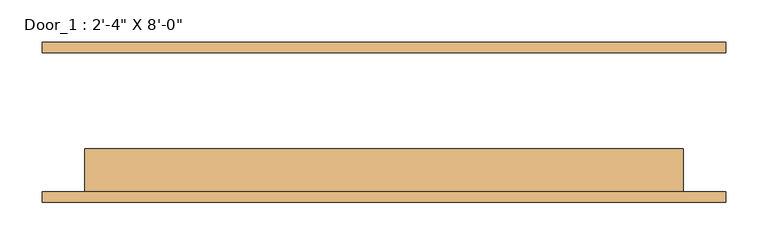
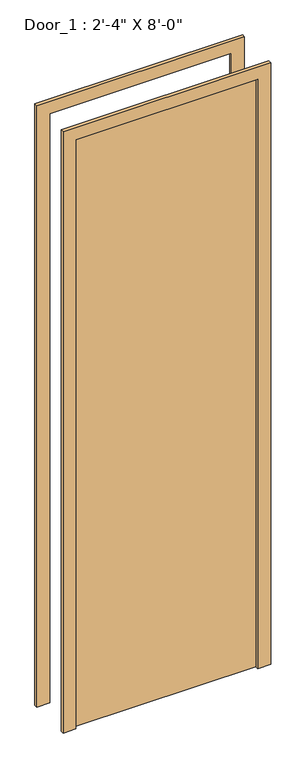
"""IFC4 building model written with IfcOpenShell, lengths in millimetres: door geometry."""

from ifc_helpers import new_model, si_unit, frame, origin, origin_with_axes, place, context, project, spatial, polyline, outline, extrude, source, transform, mapped, element, save


def door_0b5118a4(model_context):
    return source(origin(), model_context, "Body", "SweptSolid", [
        extrude(outline(polyline([(2489.2, -406.4), (0.0, -406.4), (0.0, -355.6), (2438.4, -355.6), (2438.4, 355.6), (0.0, 355.6), (0.0, 406.4), (2489.2, 406.4), (2489.2, -406.4)])), frame((0.0, -95.25, 0.0), z_axis=(0.0, 1.0, 0.0), x_axis=(0.0, 0.0, 1.0)), (0.0, 0.0, 1.0), 12.7),
        extrude(outline(polyline([(2489.2, 406.4), (2489.2, -406.4), (0.0, -406.4), (0.0, -355.6), (2438.4, -355.6), (2438.4, 355.6), (0.0, 355.6), (0.0, 406.4), (2489.2, 406.4)])), frame((0.0, 82.55, 0.0), z_axis=(0.0, 1.0, 0.0), x_axis=(0.0, 0.0, 1.0)), (0.0, 0.0, 1.0), 12.7),
        extrude(outline(polyline([(355.6, -31.75), (355.6, -82.55), (-355.6, -82.55), (-355.6, -31.75), (355.6, -31.75)])), origin_with_axes(), (0.0, 0.0, 1.0), 2438.4),
    ])


if __name__ == "__main__":
    model = new_model("IFC4")
    model_context = context("Model", 3, world=origin())
    ifc_project = project(units=[si_unit("LENGTHUNIT", "METRE", prefix="MILLI")], contexts=[model_context])
    site = spatial("IfcSite", under=ifc_project)
    building = spatial("IfcBuilding", under=site)
    placement = place(None, origin())
    door_shape = door_0b5118a4(model_context)
    element("IfcDoor", 1, ObjectType="Door_1 : 2'-4\" X 8'-0\"", at=placement, inside=building, context=model_context, shape_type="MappedRepresentation", body=[
        mapped(door_shape, transform((0.0, 0.0, 0.0), x_axis=(1.0, 0.0, 0.0), y_axis=(0.0, 1.0, 0.0), z_axis=(0.0, 0.0, 1.0))),
    ])
    save(model, "model.ifc")
